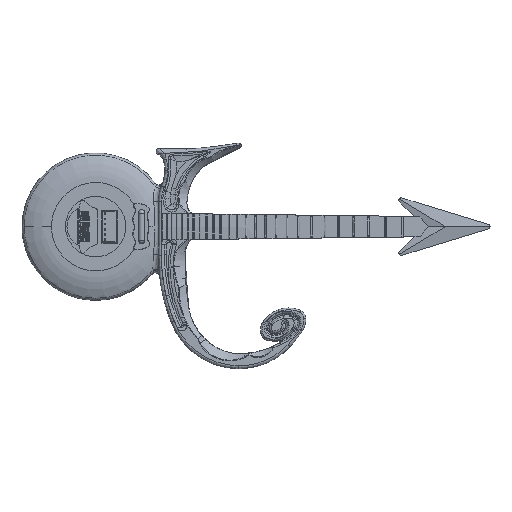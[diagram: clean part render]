
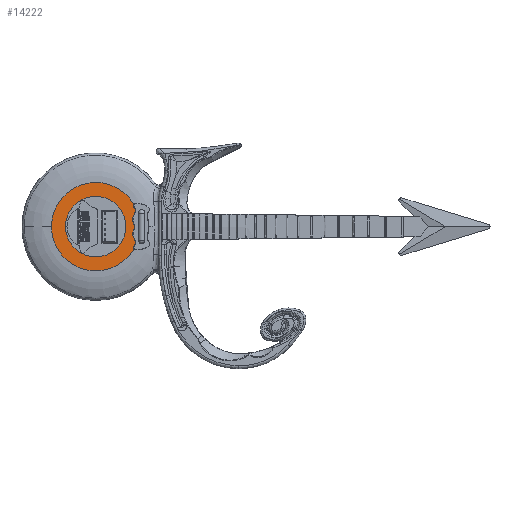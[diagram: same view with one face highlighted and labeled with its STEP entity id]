
A CAD part, top view. The second image highlights one B-rep face of the part: STEP entity #14222.
In plain terms, the highlighted planar face has unit normal (0, 0, 1).
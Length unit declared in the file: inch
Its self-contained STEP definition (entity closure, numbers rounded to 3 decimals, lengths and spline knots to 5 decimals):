
#105 = AXIS2_PLACEMENT_3D ( 'NONE', #33296, #2805, #2560 ) ;
#541 = AXIS2_PLACEMENT_3D ( 'NONE', #13610, #16283, #16515 ) ;
#806 = ORIENTED_EDGE ( 'NONE', *, *, #22438, .F. ) ;
#1088 = CARTESIAN_POINT ( 'NONE',  ( 0., 0., 1.4375 ) ) ;
#1643 = CARTESIAN_POINT ( 'NONE',  ( 3.26523, 1.04677, 1.4375 ) ) ;
#1849 = CARTESIAN_POINT ( 'NONE',  ( 3.22602, 1.65667, 1.4375 ) ) ;
#1855 = AXIS2_PLACEMENT_3D ( 'NONE', #29416, #4159, #4278 ) ;
#2159 = EDGE_CURVE ( 'NONE', #20286, #32211, #23636, .T. ) ;
#2560 = DIRECTION ( 'NONE',  ( 1., 0., 0. ) ) ;
#2805 = DIRECTION ( 'NONE',  ( 0., 0., 1. ) ) ;
#2807 = VERTEX_POINT ( 'NONE', #3140 ) ;
#2819 = ORIENTED_EDGE ( 'NONE', *, *, #10024, .F. ) ;
#3012 = AXIS2_PLACEMENT_3D ( 'NONE', #3740, #31764, #15059 ) ;
#3021 = FACE_OUTER_BOUND ( 'NONE', #25011, .T. ) ;
#3140 = CARTESIAN_POINT ( 'NONE',  ( 3.23142, 1.90275, 1.4375 ) ) ;
#3455 = DIRECTION ( 'NONE',  ( 0., 0., 1. ) ) ;
#3705 = VERTEX_POINT ( 'NONE', #28077 ) ;
#3740 = CARTESIAN_POINT ( 'NONE',  ( 3.36907, 1.77663, 1.4375 ) ) ;
#3787 = PLANE ( 'NONE',  #12554 ) ;
#4049 = CARTESIAN_POINT ( 'NONE',  ( 2.82613, 0., 1.4375 ) ) ;
#4159 = DIRECTION ( 'NONE',  ( 0., 0., -1. ) ) ;
#4278 = DIRECTION ( 'NONE',  ( 1., 0., 0. ) ) ;
#4395 = VERTEX_POINT ( 'NONE', #26614 ) ;
#5219 = CARTESIAN_POINT ( 'NONE',  ( 2.82613, 0., 1.4375 ) ) ;
#5558 = CIRCLE ( 'NONE', #14946, 0.51614 ) ;
#5577 = VERTEX_POINT ( 'NONE', #26677 ) ;
#6257 = DIRECTION ( 'NONE',  ( 1., 0., 0. ) ) ;
#6268 = ORIENTED_EDGE ( 'NONE', *, *, #18372, .T. ) ;
#6534 = DIRECTION ( 'NONE',  ( 0., 0., -1. ) ) ;
#6641 = CIRCLE ( 'NONE', #34071, 0.51614 ) ;
#6650 = ORIENTED_EDGE ( 'NONE', *, *, #2159, .F. ) ;
#6720 = ORIENTED_EDGE ( 'NONE', *, *, #33605, .F. ) ;
#6784 = AXIS2_PLACEMENT_3D ( 'NONE', #4049, #15142, #6843 ) ;
#6843 = DIRECTION ( 'NONE',  ( 1., 0., 0. ) ) ;
#6928 = DIRECTION ( 'NONE',  ( -1., 0., 0. ) ) ;
#8124 = AXIS2_PLACEMENT_3D ( 'NONE', #30325, #33119, #10800 ) ;
#9107 = ORIENTED_EDGE ( 'NONE', *, *, #21109, .F. ) ;
#9156 = CARTESIAN_POINT ( 'NONE',  ( 3.22602, -0.20622, 1.4375 ) ) ;
#9420 = ORIENTED_EDGE ( 'NONE', *, *, #28599, .F. ) ;
#9487 = DIRECTION ( 'NONE',  ( 0., 0., -1. ) ) ;
#9942 = CARTESIAN_POINT ( 'NONE',  ( 2.83052, -1.32503, 1.4375 ) ) ;
#10024 = EDGE_CURVE ( 'NONE', #14901, #3705, #5558, .T. ) ;
#10420 = EDGE_CURVE ( 'NONE', #11846, #20286, #36085, .T. ) ;
#10507 = DIRECTION ( 'NONE',  ( 1., 0., 0. ) ) ;
#10800 = DIRECTION ( 'NONE',  ( -1., 0., 0. ) ) ;
#11301 = EDGE_CURVE ( 'NONE', #28892, #4395, #36050, .T. ) ;
#11846 = VERTEX_POINT ( 'NONE', #35477 ) ;
#12262 = EDGE_CURVE ( 'NONE', #19121, #28892, #36022, .T. ) ;
#12554 = AXIS2_PLACEMENT_3D ( 'NONE', #1088, #9487, #6928 ) ;
#13610 = CARTESIAN_POINT ( 'NONE',  ( 3.97499, -0.59247, 1.4375 ) ) ;
#14121 = CARTESIAN_POINT ( 'NONE',  ( 3.23142, -1.90275, 1.4375 ) ) ;
#14222 = ADVANCED_FACE ( 'NONE', ( #3021 ), #3787, .F. ) ;
#14901 = VERTEX_POINT ( 'NONE', #1849 ) ;
#14946 = AXIS2_PLACEMENT_3D ( 'NONE', #27577, #30155, #10507 ) ;
#15057 = CARTESIAN_POINT ( 'NONE',  ( 3.34666, -1.32503, 1.4375 ) ) ;
#15059 = DIRECTION ( 'NONE',  ( -1., 0., 0. ) ) ;
#15142 = DIRECTION ( 'NONE',  ( 0., 0., -1. ) ) ;
#15512 = CARTESIAN_POINT ( 'NONE',  ( 3.27606, 0., 1.4375 ) ) ;
#16283 = DIRECTION ( 'NONE',  ( 0., 0., 1. ) ) ;
#16420 = DIRECTION ( 'NONE',  ( 0., 0., -1. ) ) ;
#16515 = DIRECTION ( 'NONE',  ( 1., 0., 0. ) ) ;
#17376 = CIRCLE ( 'NONE', #541, 0.8427 ) ;
#17507 = VERTEX_POINT ( 'NONE', #14121 ) ;
#17863 = CARTESIAN_POINT ( 'NONE',  ( 0., 0., 1.4375 ) ) ;
#18100 = EDGE_CURVE ( 'NONE', #5577, #2807, #20338, .T. ) ;
#18372 = EDGE_CURVE ( 'NONE', #14901, #2807, #31662, .T. ) ;
#18992 = AXIS2_PLACEMENT_3D ( 'NONE', #22816, #3455, #6257 ) ;
#19121 = VERTEX_POINT ( 'NONE', #31531 ) ;
#19126 = AXIS2_PLACEMENT_3D ( 'NONE', #5219, #16420, #35952 ) ;
#20286 = VERTEX_POINT ( 'NONE', #15512 ) ;
#20338 = CIRCLE ( 'NONE', #8124, 3.75 ) ;
#20655 = CIRCLE ( 'NONE', #105, 0.1867 ) ;
#21109 = EDGE_CURVE ( 'NONE', #27557, #11846, #30257, .T. ) ;
#22108 = ORIENTED_EDGE ( 'NONE', *, *, #18100, .F. ) ;
#22438 = EDGE_CURVE ( 'NONE', #4395, #17507, #20655, .T. ) ;
#22466 = DIRECTION ( 'NONE',  ( 1., 0., 0. ) ) ;
#22816 = CARTESIAN_POINT ( 'NONE',  ( 3.97499, 0.59247, 1.4375 ) ) ;
#23636 = CIRCLE ( 'NONE', #19126, 0.44992 ) ;
#24173 = DIRECTION ( 'NONE',  ( 1., 0., 0. ) ) ;
#24911 = CARTESIAN_POINT ( 'NONE',  ( 2.83052, 1.32503, 1.4375 ) ) ;
#25011 = EDGE_LOOP ( 'NONE', ( #2819, #6268, #22108, #27368, #806, #34695, #27654, #6720, #6650, #30241, #9107, #9420 ) ) ;
#26014 = DIRECTION ( 'NONE',  ( -1., 0., 0. ) ) ;
#26614 = CARTESIAN_POINT ( 'NONE',  ( 3.22602, -1.65667, 1.4375 ) ) ;
#26677 = CARTESIAN_POINT ( 'NONE',  ( -3.75, 0., 1.4375 ) ) ;
#27368 = ORIENTED_EDGE ( 'NONE', *, *, #35694, .F. ) ;
#27557 = VERTEX_POINT ( 'NONE', #1643 ) ;
#27577 = CARTESIAN_POINT ( 'NONE',  ( 2.83052, 1.32503, 1.4375 ) ) ;
#27654 = ORIENTED_EDGE ( 'NONE', *, *, #12262, .F. ) ;
#27905 = AXIS2_PLACEMENT_3D ( 'NONE', #9942, #29483, #24173 ) ;
#28077 = CARTESIAN_POINT ( 'NONE',  ( 3.34666, 1.32503, 1.4375 ) ) ;
#28599 = EDGE_CURVE ( 'NONE', #3705, #27557, #6641, .T. ) ;
#28892 = VERTEX_POINT ( 'NONE', #15057 ) ;
#29416 = CARTESIAN_POINT ( 'NONE',  ( 2.83052, -1.32503, 1.4375 ) ) ;
#29483 = DIRECTION ( 'NONE',  ( 0., 0., -1. ) ) ;
#30155 = DIRECTION ( 'NONE',  ( 0., 0., -1. ) ) ;
#30241 = ORIENTED_EDGE ( 'NONE', *, *, #10420, .F. ) ;
#30257 = CIRCLE ( 'NONE', #18992, 0.8427 ) ;
#30325 = CARTESIAN_POINT ( 'NONE',  ( 0., 0., 1.4375 ) ) ;
#30438 = DIRECTION ( 'NONE',  ( 0., 0., -1. ) ) ;
#31531 = CARTESIAN_POINT ( 'NONE',  ( 3.26523, -1.04677, 1.4375 ) ) ;
#31662 = CIRCLE ( 'NONE', #3012, 0.1867 ) ;
#31764 = DIRECTION ( 'NONE',  ( 0., 0., -1. ) ) ;
#32211 = VERTEX_POINT ( 'NONE', #9156 ) ;
#32569 = CIRCLE ( 'NONE', #35176, 3.75 ) ;
#33119 = DIRECTION ( 'NONE',  ( 0., 0., -1. ) ) ;
#33296 = CARTESIAN_POINT ( 'NONE',  ( 3.36907, -1.77663, 1.4375 ) ) ;
#33605 = EDGE_CURVE ( 'NONE', #32211, #19121, #17376, .T. ) ;
#34071 = AXIS2_PLACEMENT_3D ( 'NONE', #24911, #30438, #22466 ) ;
#34695 = ORIENTED_EDGE ( 'NONE', *, *, #11301, .F. ) ;
#35176 = AXIS2_PLACEMENT_3D ( 'NONE', #17863, #6534, #26014 ) ;
#35477 = CARTESIAN_POINT ( 'NONE',  ( 3.22602, 0.20622, 1.4375 ) ) ;
#35694 = EDGE_CURVE ( 'NONE', #17507, #5577, #32569, .T. ) ;
#35952 = DIRECTION ( 'NONE',  ( 1., 0., 0. ) ) ;
#36022 = CIRCLE ( 'NONE', #27905, 0.51614 ) ;
#36050 = CIRCLE ( 'NONE', #1855, 0.51614 ) ;
#36085 = CIRCLE ( 'NONE', #6784, 0.44992 ) ;
